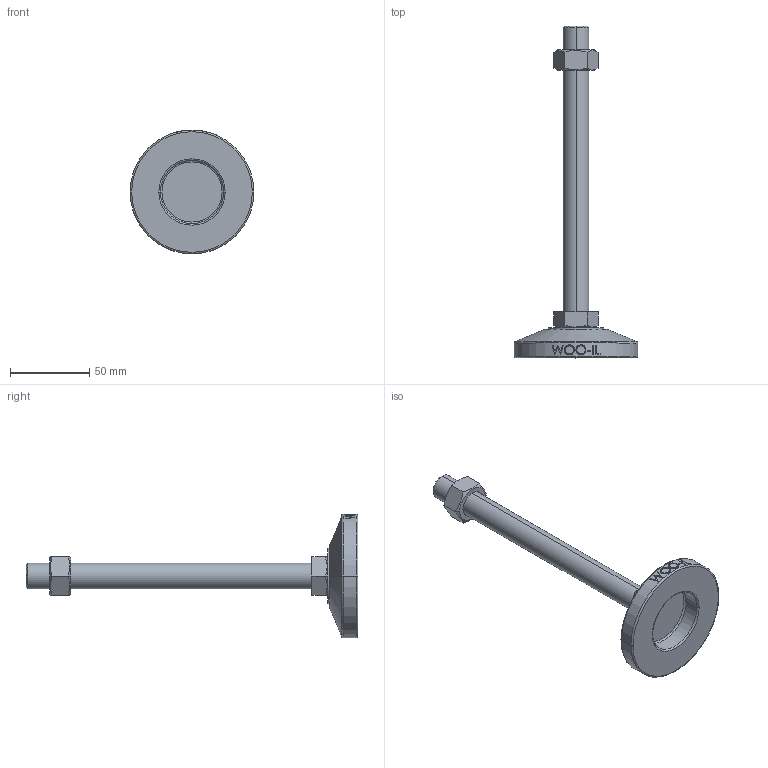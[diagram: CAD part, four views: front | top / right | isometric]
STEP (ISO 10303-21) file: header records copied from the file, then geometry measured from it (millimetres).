
FILE_DESCRIPTION (( 'STEP AP214' ), '1' );
FILE_NAME ('MFT78-M16-180.step', '2021-03-29T04:43:37', ( '' ), ( '' ), 'SwSTEP 2.0', 'SolidWorks 2019', '' );
FILE_SCHEMA (( 'AUTOMOTIVE_DESIGN' ));
Length unit declared in the file: millimetre
Products named in the file (2): MFT78-M16-180
Bounding box: 78 x 209 x 78 mm (x, y, z)
Volume: 101546.7 mm3; surface area: 26628.3 mm2
Topology: 3 solids, 3 shells, 106 faces, 243 edges, 154 vertices
Faces by surface type: plane 48, cylinder 18, bspline 16, cone 14, torus 10
Entity records: 4506 total; most frequent: CARTESIAN_POINT 2163, ORIENTED_EDGE 486, DIRECTION 439, EDGE_CURVE 243, AXIS2_PLACEMENT_3D 170, VERTEX_POINT 154, EDGE_LOOP 119, ADVANCED_FACE 106
